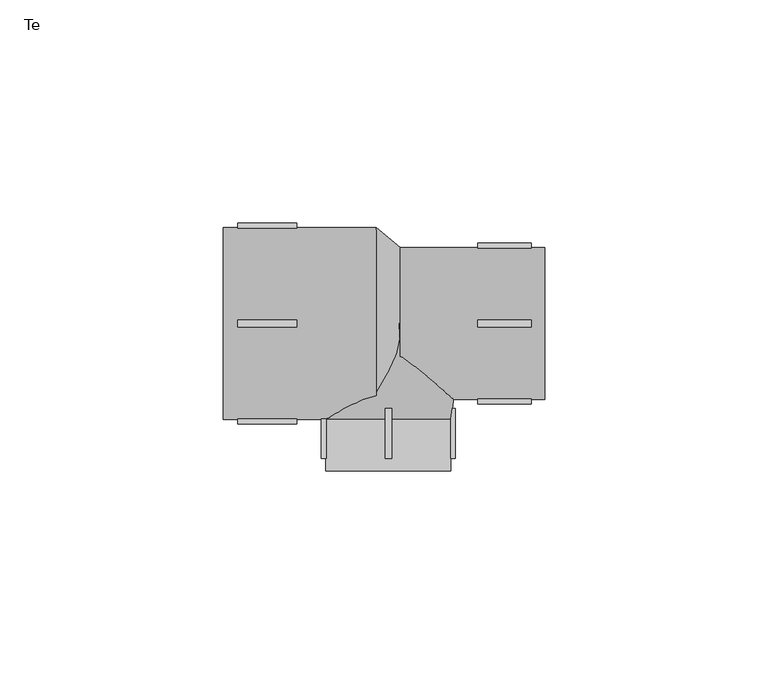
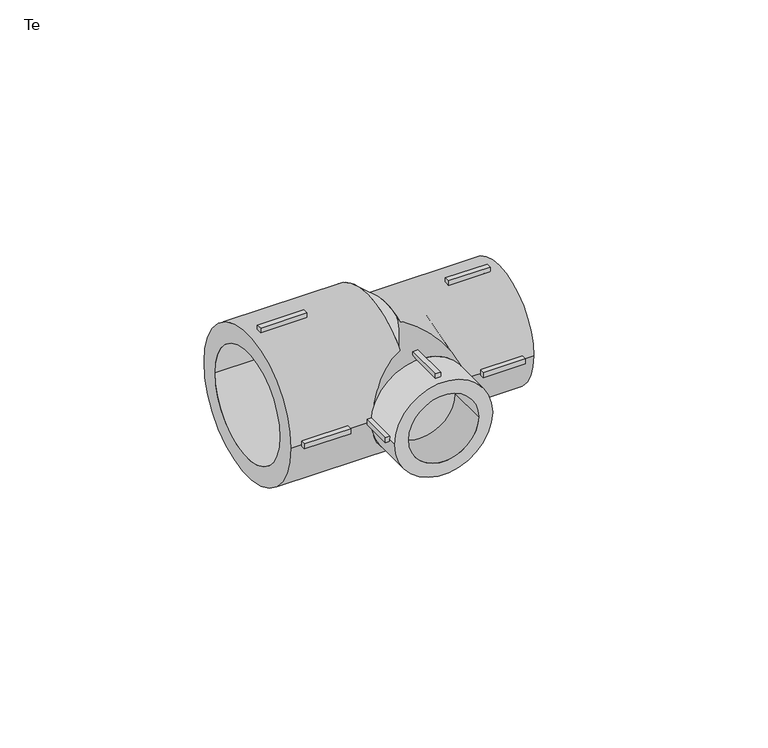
"""IFC4 building model written with IfcOpenShell, lengths in millimetres: pipe fitting geometry, EGB_VASEN_ PPR_Te WXR300_Te reducida WXR310 : Te."""

from ifc_helpers import new_model, si_unit, point, frame, origin, origin_2d, place, context, project, spatial, polyline, circle_curve, trimmed, segment, composite_curve, outline, extrude, source, transform, mapped, element, save
from ifc_brep_helpers import plane_surface, revolved_surface, advanced_brep


def te_2bb6576c(model_context):
    return source(origin(), model_context, "Body", "SolidModel", [
        extrude(outline(polyline([(-0.75, -19.0), (0.75, -19.0), (0.75, -30.2), (-0.75, -30.2), (-0.75, -19.0)])), frame((0.0, 0.0, 13.0), z_axis=(0.0, 0.0, 1.0), x_axis=(1.0, 0.0, 0.0)), (0.0, 0.0, 1.0), 2.0),
        extrude(outline(polyline([(-0.75, -19.0), (0.75, -19.0), (0.75, -30.2), (-0.75, -30.2), (-0.75, -19.0)])), frame((0.0, 0.0, -15.0), z_axis=(0.0, 0.0, 1.0), x_axis=(1.0, 0.0, 0.0)), (0.0, 0.0, 1.0), 2.0),
        extrude(outline(polyline([(13.0, -19.0), (15.0, -19.0), (15.0, -30.2), (13.0, -30.2), (13.0, -19.0)])), frame((0.0, 0.0, -0.75), z_axis=(0.0, 0.0, 1.0), x_axis=(1.0, 0.0, 0.0)), (0.0, 0.0, 1.0), 1.5),
        extrude(outline(polyline([(-15.0, -19.0), (-13.0, -19.0), (-13.0, -30.2), (-15.0, -30.2), (-15.0, -19.0)])), frame((0.0, 0.0, -0.75), z_axis=(0.0, 0.0, 1.0), x_axis=(1.0, 0.0, 0.0)), (0.0, 0.0, 1.0), 1.5),
        extrude(outline(polyline([(20.0, -0.75), (20.0, 0.75), (32.0, 0.75), (32.0, -0.75), (20.0, -0.75)])), frame((0.0, 0.0, 16.0), z_axis=(0.0, 0.0, 1.0), x_axis=(1.0, 0.0, 0.0)), (0.0, 0.0, 1.0), 2.0),
        extrude(outline(polyline([(20.0, -0.75), (20.0, 0.75), (32.0, 0.75), (32.0, -0.75), (20.0, -0.75)])), frame((0.0, 0.0, -18.0), z_axis=(0.0, 0.0, 1.0), x_axis=(1.0, 0.0, 0.0)), (0.0, 0.0, 1.0), 2.0),
        extrude(outline(polyline([(20.0, 16.0), (20.0, 18.0), (32.0, 18.0), (32.0, 16.0), (20.0, 16.0)])), frame((0.0, 0.0, -0.75), z_axis=(0.0, 0.0, 1.0), x_axis=(1.0, 0.0, 0.0)), (0.0, 0.0, 1.0), 1.5),
        extrude(outline(polyline([(20.0, -18.0), (20.0, -16.0), (32.0, -16.0), (32.0, -18.0), (20.0, -18.0)])), frame((0.0, 0.0, -0.75), z_axis=(0.0, 0.0, 1.0), x_axis=(1.0, 0.0, 0.0)), (0.0, 0.0, 1.0), 1.5),
        extrude(outline(polyline([(-20.5, 0.75), (-20.5, -0.75), (-33.7, -0.75), (-33.7, 0.75), (-20.5, 0.75)])), frame((0.0, 0.0, 20.5), z_axis=(0.0, 0.0, 1.0), x_axis=(1.0, 0.0, 0.0)), (0.0, 0.0, 1.0), 2.0),
        extrude(outline(polyline([(-20.5, 0.75), (-20.5, -0.75), (-33.7, -0.75), (-33.7, 0.75), (-20.5, 0.75)])), frame((0.0, 0.0, -22.5), z_axis=(0.0, 0.0, 1.0), x_axis=(1.0, 0.0, 0.0)), (0.0, 0.0, 1.0), 2.0),
        extrude(outline(polyline([(-20.5, 22.5), (-20.5, 20.5), (-33.7, 20.5), (-33.7, 22.5), (-20.5, 22.5)])), frame((0.0, 0.0, -0.75), z_axis=(0.0, 0.0, 1.0), x_axis=(1.0, 0.0, 0.0)), (0.0, 0.0, 1.0), 1.5),
        extrude(outline(polyline([(-20.5, -20.5), (-20.5, -22.5), (-33.7, -22.5), (-33.7, -20.5), (-20.5, -20.5)])), frame((0.0, 0.0, -0.75), z_axis=(0.0, 0.0, 1.0), x_axis=(1.0, 0.0, 0.0)), (0.0, 0.0, 1.0), 1.5),
        extrude(outline(composite_curve([segment(trimmed(circle_curve(origin_2d(), 14.0), [point((0.0, 14.0))], [point((0.0, -14.0))], False, "CARTESIAN"), True, "CONTINUOUS"), segment(trimmed(circle_curve(origin_2d(), 14.0), [point((0.0, -14.0))], [point((0.0, 14.0))], False, "CARTESIAN"), True, "CONTINUOUS")], self_intersect=False), holes=[composite_curve([segment(trimmed(circle_curve(origin_2d(), 10.0), [point((0.0, 10.0))], [point((0.0, -10.0))], True, "CARTESIAN"), True, "CONTINUOUS"), segment(trimmed(circle_curve(origin_2d(), 10.0), [point((0.0, -10.0))], [point((0.0, 10.0))], True, "CARTESIAN"), True, "CONTINUOUS")], self_intersect=False)]), frame((0.0, -33.0, 0.0), z_axis=(0.0, 1.0, 0.0), x_axis=(0.0, 0.0, 1.0)), (0.0, 0.0, 1.0), 11.5),
        extrude(outline(composite_curve([segment(trimmed(circle_curve(origin_2d(), 17.0), [point((-17.0, 0.0))], [point((17.0, 0.0))], False, "CARTESIAN"), True, "CONTINUOUS"), segment(trimmed(circle_curve(origin_2d(), 17.0), [point((17.0, 0.0))], [point((-17.0, 0.0))], False, "CARTESIAN"), True, "CONTINUOUS")], self_intersect=False), holes=[composite_curve([segment(trimmed(circle_curve(origin_2d(), 12.5), [point((-12.5, 0.0))], [point((12.5, 0.0))], True, "CARTESIAN"), True, "CONTINUOUS"), segment(trimmed(circle_curve(origin_2d(), 12.5), [point((12.5, 0.0))], [point((-12.5, 0.0))], True, "CARTESIAN"), True, "CONTINUOUS")], self_intersect=False)]), frame((2.68, 0.0, 0.0), z_axis=(1.0, 0.0, 0.0), x_axis=(0.0, 1.0, 0.0)), (0.0, 0.0, 1.0), 32.32),
        extrude(outline(composite_curve([segment(trimmed(circle_curve(origin_2d(), 21.5), [point((-21.5, 0.0))], [point((21.5, 0.0))], False, "CARTESIAN"), True, "CONTINUOUS"), segment(trimmed(circle_curve(origin_2d(), 21.5), [point((21.5, 0.0))], [point((-21.5, 0.0))], False, "CARTESIAN"), True, "CONTINUOUS")], self_intersect=False), holes=[composite_curve([segment(trimmed(circle_curve(origin_2d(), 16.0), [point((-16.0, 0.0))], [point((16.0, 0.0))], True, "CARTESIAN"), True, "CONTINUOUS"), segment(trimmed(circle_curve(origin_2d(), 16.0), [point((16.0, 0.0))], [point((-16.0, 0.0))], True, "CARTESIAN"), True, "CONTINUOUS")], self_intersect=False)]), frame((-37.0, 0.0, 0.0), z_axis=(1.0, 0.0, 0.0), x_axis=(0.0, 1.0, 0.0)), (0.0, 0.0, 1.0), 34.32),
        advanced_brep(
        [(17.0, 0.0, 0.0), (-17.0, 0.0, 0.0), (14.0, -21.5, 0.0), (-14.0, -21.5, 0.0)],
        [
            (0, 1, circle_curve(frame((0.0, 0.0, 0.0), z_axis=(0.0, 1.0, 0.0), x_axis=(1.0, 0.0, 0.0)), 17.0)),
            (1, 0, circle_curve(frame((0.0, 0.0, 0.0), z_axis=(0.0, 1.0, 0.0), x_axis=(-1.0, 0.0, 0.0)), 17.0)),
            (2, 3, circle_curve(frame((0.0, -21.5, 0.0), z_axis=(0.0, -1.0, 0.0), x_axis=(-1.0, 0.0, 0.0)), 14.0)),
            (3, 2, circle_curve(frame((0.0, -21.5, 0.0), z_axis=(0.0, -1.0, 0.0), x_axis=(1.0, 0.0, 0.0)), 14.0)),
            (3, 1),
            (0, 2),
        ],
        [
            plane_surface(frame((0.0, 0.0, 0.0), z_axis=(0.0, 1.0, 0.0), x_axis=(0.0, 0.0, -1.0))),
            plane_surface(frame((0.0, -21.5, 0.0), z_axis=(0.0, -1.0, 0.0), x_axis=(0.0, 0.0, -1.0))),
            revolved_surface(polyline([(-13.999999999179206, -21.5, 0.0), (-17.0, 0.0, 0.0)]), (0.0, -121.8333333, 0.0), (0.0, 1.0, 0.0)),
            revolved_surface(polyline([(13.999999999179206, -21.5, 0.0), (17.0, 0.0, 0.0)]), (0.0, -121.8333333, 0.0), (0.0, 1.0, 0.0)),
        ],
        [
            (0, [[1, 2]]),
            (1, [[3, 4]]),
            (2, [[-4, 5, -1, 6]]),
            (3, [[-3, -6, -2, -5]]),
        ],
    ),
        advanced_brep(
        [(2.68, -17.0, 0.0), (2.68, 17.0, 0.0), (-2.68, -21.5, 0.0), (-2.68, 21.5, 0.0)],
        [
            (0, 1, circle_curve(frame((2.68, 0.0, 0.0), z_axis=(1.0, 0.0, 0.0), x_axis=(0.0, -1.0, 0.0)), 17.0)),
            (1, 0, circle_curve(frame((2.68, 0.0, 0.0), z_axis=(1.0, 0.0, 0.0), x_axis=(0.0, 1.0, 0.0)), 17.0)),
            (2, 3, circle_curve(frame((-2.68, 0.0, 0.0), z_axis=(-1.0, 0.0, 0.0), x_axis=(0.0, 1.0, 0.0)), 21.5)),
            (3, 2, circle_curve(frame((-2.68, 0.0, 0.0), z_axis=(-1.0, 0.0, 0.0), x_axis=(0.0, -1.0, 0.0)), 21.5)),
            (3, 1),
            (0, 2),
        ],
        [
            plane_surface(frame((2.68, 0.0, 0.0), z_axis=(1.0, 0.0, 0.0), x_axis=(0.0, 0.0, -1.0))),
            plane_surface(frame((-2.68, 0.0, 0.0), z_axis=(-1.0, 0.0, 0.0), x_axis=(0.0, 0.0, -1.0))),
            revolved_surface(polyline([(2.6799999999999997, -17.000000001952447, 0.0), (-2.6799999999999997, -21.5, 0.0)]), (22.9288889, 0.0, 0.0), (-1.0, 0.0, 0.0)),
            revolved_surface(polyline([(2.6799999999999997, 17.000000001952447, 0.0), (-2.6799999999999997, 21.5, 0.0)]), (22.9288889, 0.0, 0.0), (-1.0, 0.0, 0.0)),
        ],
        [
            (0, [[1, 2]]),
            (1, [[3, 4]]),
            (2, [[-4, 5, -1, 6]]),
            (3, [[-3, -6, -2, -5]]),
        ],
    ),
    ])


if __name__ == "__main__":
    model = new_model("IFC4")
    model_context = context("Model", 3, world=origin())
    ifc_project = project(units=[si_unit("LENGTHUNIT", "METRE", prefix="MILLI")], contexts=[model_context])
    site = spatial("IfcSite", under=ifc_project)
    building = spatial("IfcBuilding", under=site)
    placement = place(None, origin())
    te_shape = te_2bb6576c(model_context)
    element("IfcPipeFitting", 1, ObjectType="EGB_VASEN_ PPR_Te WXR300_Te reducida WXR310 : Te", at=placement, inside=building, context=model_context, shape_type="MappedRepresentation", body=[
        mapped(te_shape, transform((0.0, 0.0, 0.0), x_axis=(1.0, 0.0, 0.0), y_axis=(0.0, 1.0, 0.0), z_axis=(0.0, 0.0, 1.0))),
    ])
    save(model, "model.ifc")
